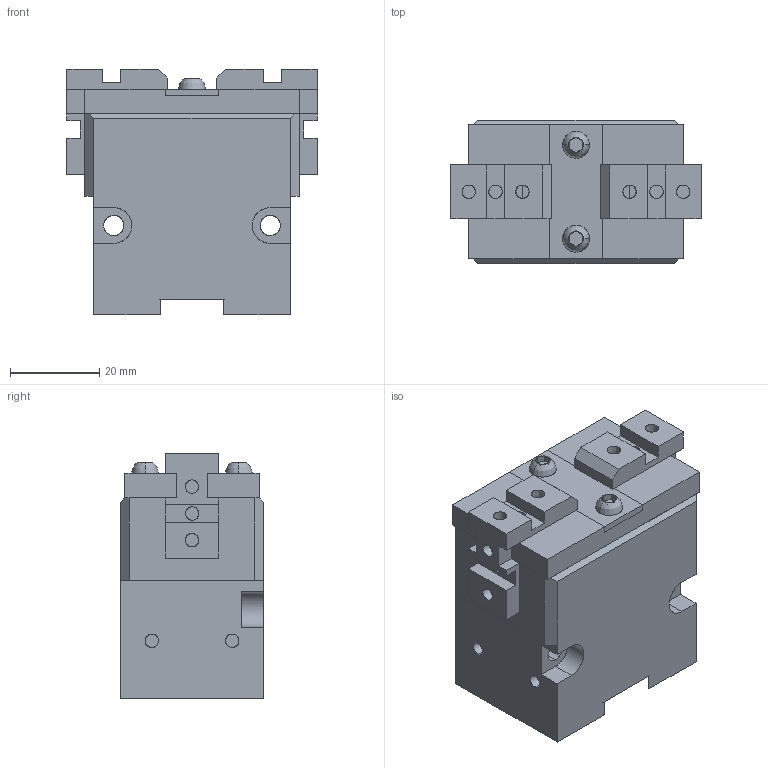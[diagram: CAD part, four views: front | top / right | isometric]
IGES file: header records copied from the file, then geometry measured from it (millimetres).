
Global section: file name: C:\Documents and Settings\Administrateur\Mes documents\OPE-50-SX-OPEN.igs; native system: AutoCAD-16.0s (LMS Tech) (Microsoft Windows NT Version 5.1 (x86)); preprocessor: Autodesk IGES Translator Mechanical Desktop.R7.0.43.0 (Mar 18 2003) from Autodesk, Inc.; date: 20050627.155742; units: millimetre
Bounding box: 56 x 32 x 55 mm (x, y, z)
Surface area: 23517.6 mm2 (no closed solid volume)
Topology: 0 solids, 0 shells, 241 faces, 2267 edges, 2348 vertices
Faces by surface type: bspline 241
